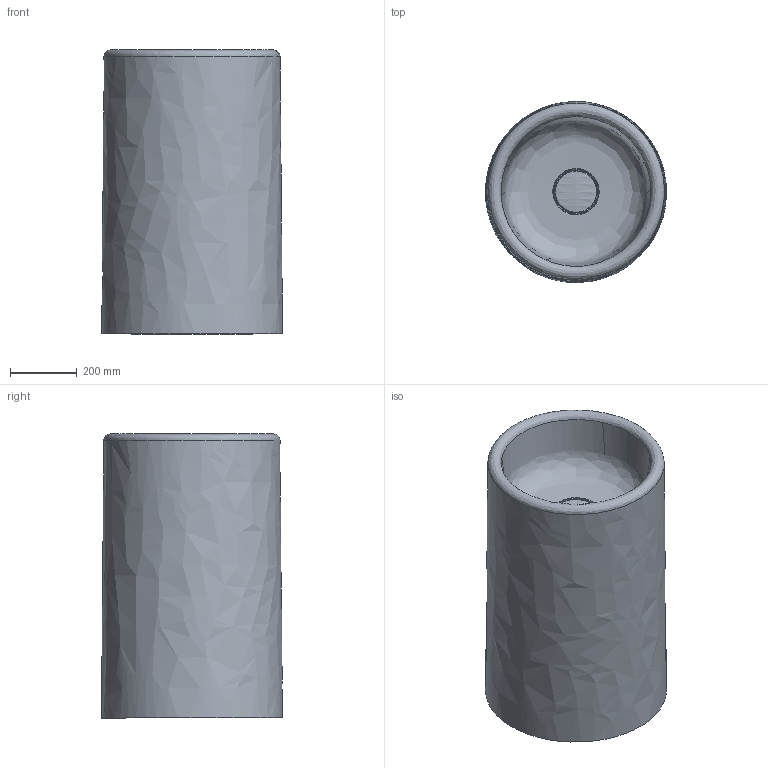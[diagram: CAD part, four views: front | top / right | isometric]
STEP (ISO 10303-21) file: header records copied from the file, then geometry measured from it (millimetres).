
FILE_DESCRIPTION(/* description */ (''),/* implementation_level */ '2;1');
FILE_NAME(/* name */ 'ITFREEC-ITFREEP',/* time_stamp */ '2024-12-16T16:54:32+01:00',/* author */ (''),/* organization */ (''),/* preprocessor_version */ 'ST-DEVELOPER v16.5',/* originating_system */ 'Rhino 7.27',/* authorisation */ '');
FILE_SCHEMA (('CONFIG_CONTROL_DESIGN'));
Length unit declared in the file: millimetre
Products named in the file (1): Document
Bounding box: 541.48 x 541.62 x 849.99 mm (x, y, z)
Volume: 58280 mm3; surface area: 1904730 mm2
Topology: 1 solids, 2 shells, 17 faces, 45 edges, 32 vertices
Faces by surface type: bspline 13, plane 4
Entity records: 1259 total; most frequent: CARTESIAN_POINT 942, ORIENTED_EDGE 72, EDGE_CURVE 38, VERTEX_POINT 23, ADVANCED_FACE 17, FACE_OUTER_BOUND 17, EDGE_LOOP 17, B_SPLINE_CURVE_WITH_KNOTS 14
